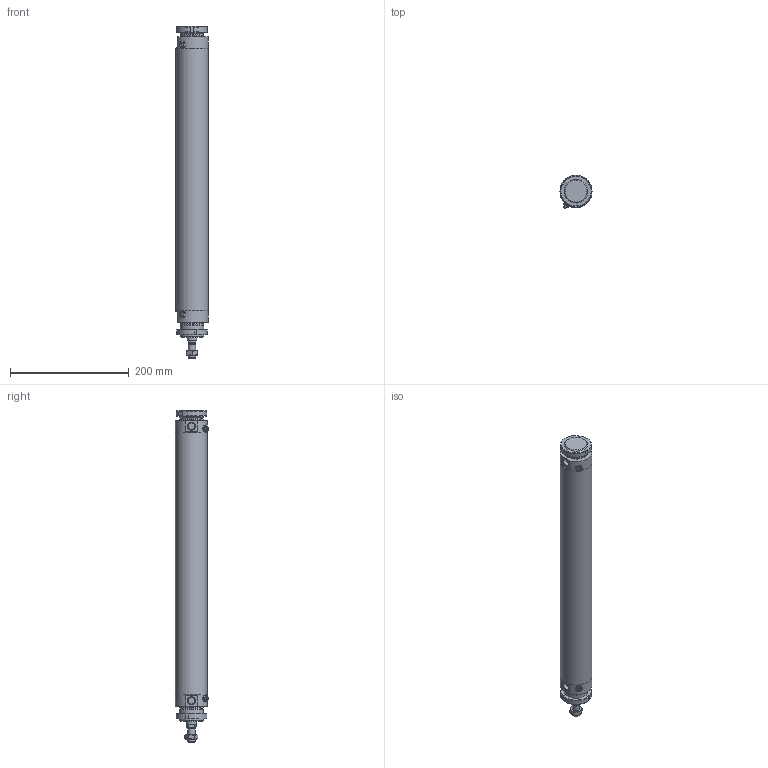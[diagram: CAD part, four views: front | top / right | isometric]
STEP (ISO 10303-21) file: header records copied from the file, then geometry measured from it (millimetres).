
FILE_DESCRIPTION(/* description */ (''),/* implementation_level */ '2;1');
FILE_NAME(/* name */ 'I:\Area Tecnica\Documenti\A-Manieri\_Inventor\12X\12X#C_###_####_#_#\12XBC_050_0400_#_#.stp',/* time_stamp */ '2015-04-28T15:44:13+02:00',/* author */ ('maniean1'),/* organization */ ('Pneumax S.p.A.'),/* preprocessor_version */ 'ST-DEVELOPER v15.2',/* originating_system */ 'Autodesk Inventor 2014',/* authorisation */ '');
FILE_SCHEMA (('AUTOMOTIVE_DESIGN { 1 0 10303 214 3 1 1 }'));
Length unit declared in the file: millimetre
Products named in the file (7): C1250_619-0400; 12X50_606; S12X50_0400; 12X_50_11; 12X50_621; G12X_050_05; 12XBC_050_0400_#_#
Bounding box: 54 x 55.88 x 560 mm (x, y, z)
Volume: 473247.7 mm3; surface area: 212820.1 mm2
Topology: 7 solids, 7 shells, 124 faces, 282 edges, 182 vertices
Faces by surface type: plane 64, cylinder 31, cone 27, torus 2
Full cylindrical faces by diameter (mm): 5 x2, 10.2 x1, 11 x2, 11.4 x2, 12 x2, 14 x1, 15.6 x1, 16 x1, 38.2 x2, 40 x6, 50 x2, 54 x3
Entity records: 2755 total; most frequent: CARTESIAN_POINT 553, DIRECTION 462, ORIENTED_EDGE 356, AXIS2_PLACEMENT_3D 197, EDGE_CURVE 178, EDGE_LOOP 160, VERTEX_POINT 136, ADVANCED_FACE 103
